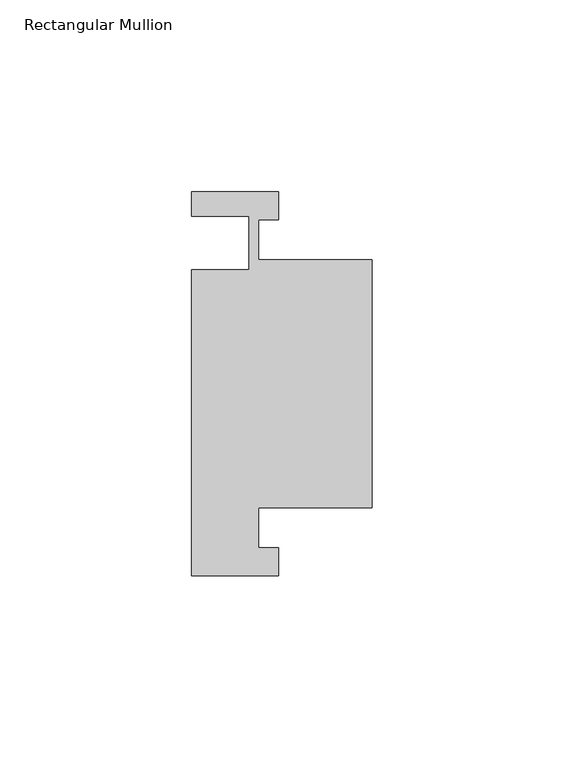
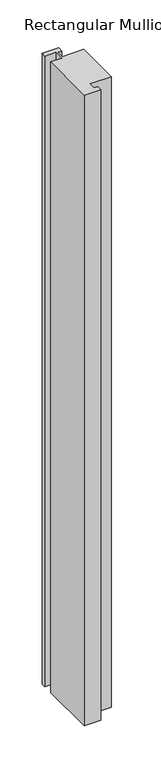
"""IFC4 building model written with IfcOpenShell, lengths in millimetres: member geometry, Rectangular Mullion : Trim-Horizontal-Teknion-Focus-FWOB."""

from ifc_helpers import new_model, si_unit, frame, origin, place, context, project, spatial, polyline, outline, extrude, source, transform, mapped, element, save


def rectangular_mullion_ff33a640(model_context):
    return source(origin(), model_context, "Body", "SweptSolid", [
        extrude(outline(polyline([(-24.3999916, 49.9999985), (-24.3999916, 42.725), (-29.4999916, 42.725), (-29.4999916, 32.3000006), (0.0, 32.3000006), (0.0, -32.3000006), (-29.4999916, -32.3000006), (-29.4999916, -42.725), (-24.3999916, -42.725), (-24.3999916, -49.9999985), (-47.0, -49.9999985), (-47.0, 29.6999985), (-31.9999916, 29.6999985), (-31.9999916, 43.6999985), (-47.0, 43.6999985), (-47.0, 49.9999985), (-24.3999916, 49.9999985)])), frame((0.0, 0.0, -914.4), z_axis=(0.0, 0.0, 1.0), x_axis=(1.0, 0.0, 0.0)), (0.0, 0.0, 1.0), 914.4),
    ])


if __name__ == "__main__":
    model = new_model("IFC4")
    model_context = context("Model", 3, world=origin())
    ifc_project = project(units=[si_unit("LENGTHUNIT", "METRE", prefix="MILLI")], contexts=[model_context])
    site = spatial("IfcSite", under=ifc_project)
    building = spatial("IfcBuilding", under=site)
    placement = place(None, origin())
    rectangular_mullion_shape = rectangular_mullion_ff33a640(model_context)
    element("IfcMember", 1, ObjectType="Rectangular Mullion : Trim-Horizontal-Teknion-Focus-FWOB", at=placement, inside=building, context=model_context, shape_type="MappedRepresentation", body=[
        mapped(rectangular_mullion_shape, transform((0.0, 0.0, 0.0), x_axis=(1.0, 0.0, 0.0), y_axis=(0.0, 1.0, 0.0), z_axis=(0.0, 0.0, 1.0))),
    ])
    save(model, "model.ifc")
